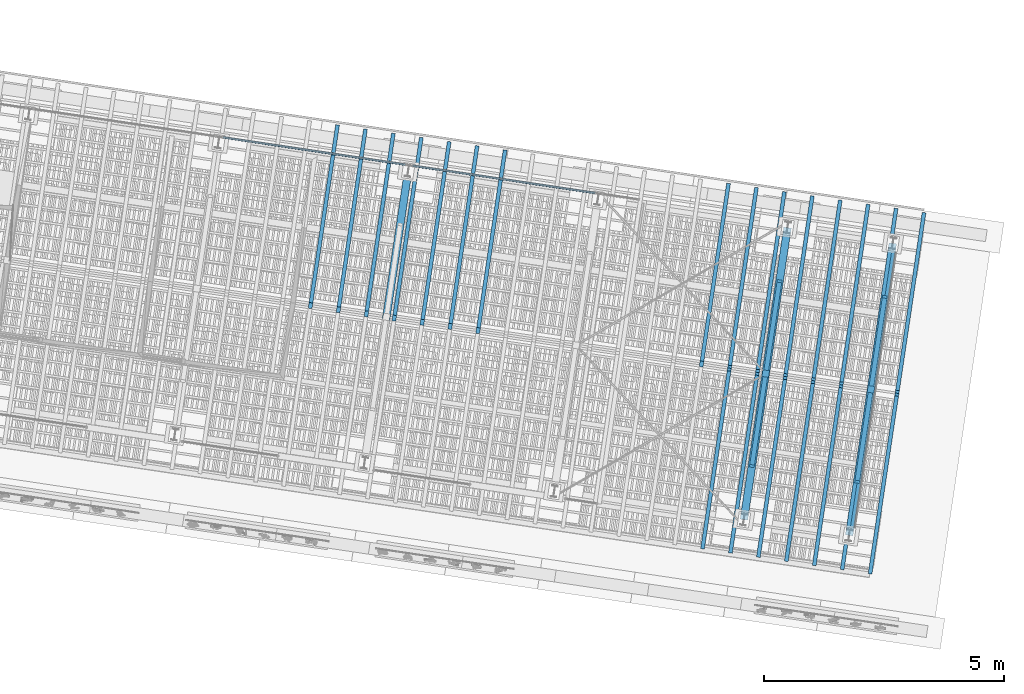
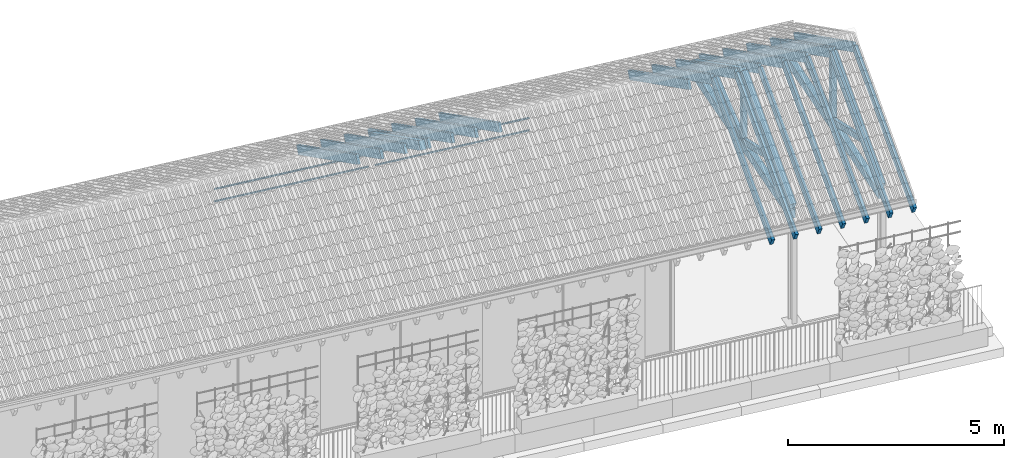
# One storey, part 101 of 128: 37 members, 2 beams, 1 element without a shape of its own.
"""IFC4 building model written with IfcOpenShell, lengths in metres."""

from ifc_helpers import new_model, si_unit, direction, frame, origin_with_axes, place, context, subcontext, project, spatial, rectangle, extrude, material, material_profile, profile_set, profile_usage, type_object, element, aggregate, save


model = new_model("IFC4")

# Units and contexts
model_context = context("Model", 3, precision=1e-05, world=origin_with_axes(), true_north=direction((0.0, 1.0)))
body_context = subcontext(model_context, "Body", "Model", "MODEL_VIEW")
ifc_project = project(units=[si_unit("VOLUMEUNIT", "CUBIC_METRE"), si_unit("LENGTHUNIT", "METRE"), si_unit("AREAUNIT", "SQUARE_METRE")], contexts=[model_context])

# Site, building, storey
site_placement = place(None, origin_with_axes())
site = spatial("IfcSite", under=ifc_project, at=site_placement, Name="Lares · Rua das Mercês · artigo 4771")
building_placement = place(site_placement, frame((15.0, 9.7, 13.9), z_axis=(0.0, 0.0, 1.0), x_axis=(0.989015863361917, -0.147809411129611, 0.0)))
building = spatial("IfcBuilding", under=site, at=building_placement, Name="Casa Sobreposta")
storey_placement = place(building_placement, origin_with_axes())
storey = spatial("IfcBuildingStorey", under=building, at=storey_placement, Name="00 · Habitação e estacionamento", Elevation=13.9)

# Members
ifc_material_1 = material(Name="Aço pintado / Stahl lackiert", Category="steel")
ifc_material_profile_1 = material_profile(ifc_material_1, rectangle(XDim=0.035, YDim=0.035))
ifc_profile_set_1 = profile_set([ifc_material_profile_1], Name="R0.035")
ifc_profile_usage_1 = profile_usage(ifc_profile_set_1)
member_type_1 = type_object("IfcMemberType", Name="R0.035 / steel", PredefinedType="NOTDEFINED", material=ifc_profile_set_1)
member_1_placement = place(storey_placement, frame((16.08, 6.4, 2.35), z_axis=(1.0, 0.0, 0.0), x_axis=(0.0, -1.0, 0.0)))
element("IfcMember", 1, at=member_1_placement, inside=storey, type_object=member_type_1, material=ifc_profile_usage_1, Name="Rasgo norte 5 · travessa", context=body_context, shape_type="SweptSolid", body=[
    extrude(rectangle(XDim=0.035, YDim=0.035), origin_with_axes(), (0.0, 0.0, 1.0), 3.84),
])
ifc_profile_usage_2 = profile_usage(ifc_profile_set_1)
member_2_placement = place(storey_placement, frame((16.08, 6.4, 2.7), z_axis=(1.0, 0.0, 0.0), x_axis=(0.0, -1.0, 0.0)))
element("IfcMember", 2, at=member_2_placement, inside=storey, type_object=member_type_1, material=ifc_profile_usage_2, Name="Rasgo norte 5 · travessa", context=body_context, shape_type="SweptSolid", body=[
    extrude(rectangle(XDim=0.035, YDim=0.035), origin_with_axes(), (0.0, 0.0, 1.0), 3.84),
])
ifc_profile_usage_3 = profile_usage(ifc_profile_set_1)
member_3_placement = place(storey_placement, frame((20.08, 6.4, 2.35), z_axis=(1.0, 0.0, 0.0), x_axis=(0.0, -1.0, 0.0)))
element("IfcMember", 3, at=member_3_placement, inside=storey, type_object=member_type_1, material=ifc_profile_usage_3, Name="Rasgo norte 6 · travessa", context=body_context, shape_type="SweptSolid", body=[
    extrude(rectangle(XDim=0.035, YDim=0.035), origin_with_axes(), (0.0, 0.0, 1.0), 3.84),
])
ifc_profile_usage_4 = profile_usage(ifc_profile_set_1)
member_4_placement = place(storey_placement, frame((20.08, 6.4, 2.7), z_axis=(1.0, 0.0, 0.0), x_axis=(0.0, -1.0, 0.0)))
element("IfcMember", 4, at=member_4_placement, inside=storey, type_object=member_type_1, material=ifc_profile_usage_4, Name="Rasgo norte 6 · travessa", context=body_context, shape_type="SweptSolid", body=[
    extrude(rectangle(XDim=0.035, YDim=0.035), origin_with_axes(), (0.0, 0.0, 1.0), 3.84),
])

# Roof, beams, members
ifc_material_2 = material(Name="Madeira / Bauholz", Category="wood")
roof_placement = place(storey_placement, origin_with_axes())
roof = element("IfcRoof", 5, at=roof_placement, inside=storey, material=ifc_material_2, Name="Cobertura de telha · duas águas 30 graus", PredefinedType="GABLE_ROOF")
ifc_material_profile_2 = material_profile(ifc_material_2, rectangle(XDim=0.16, YDim=0.24))
ifc_profile_set_2 = profile_set([ifc_material_profile_2], Name="TIMBER0.160x0.240")
ifc_profile_usage_5 = profile_usage(ifc_profile_set_2)
beam_type = type_object("IfcBeamType", Name="TIMBER0.160x0.240 / timber", PredefinedType="NOTDEFINED", material=ifc_profile_set_2)
beam_1_placement = place(roof_placement, frame((28.0, 0.12, 3.02), z_axis=(0.0, 1.0, 0.0), x_axis=(1.0, 0.0, 0.0)))
beam_1 = element("IfcBeam", 6, at=beam_1_placement, type_object=beam_type, material=ifc_profile_usage_5, Name="Tesoura · tirante inferior", context=body_context, shape_type="SweptSolid", body=[
    extrude(rectangle(XDim=0.16, YDim=0.24), origin_with_axes(), (0.0, 0.0, 1.0), 6.16),
])
ifc_profile_usage_6 = profile_usage(ifc_profile_set_2)
beam_2_placement = place(roof_placement, frame((30.22, 0.12, 3.02), z_axis=(0.0, 1.0, 0.0), x_axis=(1.0, 0.0, 0.0)))
beam_2 = element("IfcBeam", 7, at=beam_2_placement, type_object=beam_type, material=ifc_profile_usage_6, Name="Tesoura · tirante inferior", context=body_context, shape_type="SweptSolid", body=[
    extrude(rectangle(XDim=0.16, YDim=0.24), origin_with_axes(), (0.0, 0.0, 1.0), 6.16),
])
ifc_material_profile_3 = material_profile(ifc_material_2, rectangle(XDim=0.16, YDim=0.24))
ifc_profile_set_3 = profile_set([ifc_material_profile_3], Name="TIMBER0.160x0.240")
ifc_profile_usage_7 = profile_usage(ifc_profile_set_3)
member_type_2 = type_object("IfcMemberType", Name="TIMBER0.160x0.240 / timber", PredefinedType="NOTDEFINED", material=ifc_profile_set_3)
member_5_placement = place(roof_placement, frame((20.0, 3.2, 5.0225208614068), z_axis=(0.0, 0.866025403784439, -0.5), x_axis=(1.0, 0.0, 0.0)))
member_5 = element("IfcMember", 8, at=member_5_placement, type_object=member_type_2, material=ifc_profile_usage_7, Name="Tesoura · perna", context=body_context, shape_type="SweptSolid", body=[
    extrude(rectangle(XDim=0.16, YDim=0.24), origin_with_axes(), (0.0, 0.0, 1.0), 3.5564776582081),
])
ifc_profile_usage_8 = profile_usage(ifc_profile_set_3)
member_6_placement = place(roof_placement, frame((28.0, 0.12, 3.24428203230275), z_axis=(0.0, 0.866025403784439, 0.5), x_axis=(1.0, 0.0, 0.0)))
member_6 = element("IfcMember", 9, at=member_6_placement, type_object=member_type_2, material=ifc_profile_usage_8, Name="Tesoura · perna", context=body_context, shape_type="SweptSolid", body=[
    extrude(rectangle(XDim=0.16, YDim=0.24), origin_with_axes(), (0.0, 0.0, 1.0), 3.5564776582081),
])
ifc_profile_usage_9 = profile_usage(ifc_profile_set_3)
member_7_placement = place(roof_placement, frame((28.0, 3.2, 5.0225208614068), z_axis=(0.0, 0.866025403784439, -0.5), x_axis=(1.0, 0.0, 0.0)))
member_7 = element("IfcMember", 10, at=member_7_placement, type_object=member_type_2, material=ifc_profile_usage_9, Name="Tesoura · perna", context=body_context, shape_type="SweptSolid", body=[
    extrude(rectangle(XDim=0.16, YDim=0.24), origin_with_axes(), (0.0, 0.0, 1.0), 3.5564776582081),
])
ifc_profile_usage_10 = profile_usage(ifc_profile_set_3)
member_8_placement = place(roof_placement, frame((30.22, 0.12, 3.24428203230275), z_axis=(0.0, 0.866025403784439, 0.5), x_axis=(1.0, 0.0, 0.0)))
member_8 = element("IfcMember", 11, at=member_8_placement, type_object=member_type_2, material=ifc_profile_usage_10, Name="Tesoura · perna", context=body_context, shape_type="SweptSolid", body=[
    extrude(rectangle(XDim=0.16, YDim=0.24), origin_with_axes(), (0.0, 0.0, 1.0), 3.5564776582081),
])
ifc_profile_usage_11 = profile_usage(ifc_profile_set_3)
member_9_placement = place(roof_placement, frame((30.22, 3.2, 5.0225208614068), z_axis=(0.0, 0.866025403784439, -0.5), x_axis=(1.0, 0.0, 0.0)))
member_9 = element("IfcMember", 12, at=member_9_placement, type_object=member_type_2, material=ifc_profile_usage_11, Name="Tesoura · perna", context=body_context, shape_type="SweptSolid", body=[
    extrude(rectangle(XDim=0.16, YDim=0.24), origin_with_axes(), (0.0, 0.0, 1.0), 3.5564776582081),
])
ifc_material_profile_4 = material_profile(ifc_material_2, rectangle(XDim=0.14, YDim=0.14))
ifc_profile_set_4 = profile_set([ifc_material_profile_4], Name="TIMBER0.140x0.140")
ifc_profile_usage_12 = profile_usage(ifc_profile_set_4)
member_type_3 = type_object("IfcMemberType", Name="TIMBER0.140x0.140 / timber", PredefinedType="NOTDEFINED", material=ifc_profile_set_4)
member_10_placement = place(roof_placement, frame((28.0, 3.2, 3.02), z_axis=(0.0, 0.0, 1.0), x_axis=(1.0, 0.0, 0.0)))
member_10 = element("IfcMember", 13, at=member_10_placement, type_object=member_type_3, material=ifc_profile_usage_12, Name="Tesoura · pendural", context=body_context, shape_type="SweptSolid", body=[
    extrude(rectangle(XDim=0.14, YDim=0.14), origin_with_axes(), (0.0, 0.0, 1.0), 2.0025208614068),
])
ifc_profile_usage_13 = profile_usage(ifc_profile_set_4)
member_11_placement = place(roof_placement, frame((30.22, 3.2, 3.02), z_axis=(0.0, 0.0, 1.0), x_axis=(1.0, 0.0, 0.0)))
member_11 = element("IfcMember", 14, at=member_11_placement, type_object=member_type_3, material=ifc_profile_usage_13, Name="Tesoura · pendural", context=body_context, shape_type="SweptSolid", body=[
    extrude(rectangle(XDim=0.14, YDim=0.14), origin_with_axes(), (0.0, 0.0, 1.0), 2.0025208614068),
])
ifc_material_profile_5 = material_profile(ifc_material_2, rectangle(XDim=0.1, YDim=0.16))
ifc_profile_set_5 = profile_set([ifc_material_profile_5], Name="TIMBER0.100x0.160")
ifc_profile_usage_14 = profile_usage(ifc_profile_set_5)
member_type_4 = type_object("IfcMemberType", Name="TIMBER0.100x0.160 / timber", PredefinedType="NOTDEFINED", material=ifc_profile_set_5)
member_12_placement = place(roof_placement, frame((28.0, 3.2, 3.1), z_axis=(0.0, -0.937832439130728, 0.347088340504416), x_axis=(-1.0, 0.0, 0.0)))
member_12 = element("IfcMember", 15, at=member_12_placement, type_object=member_type_4, material=ifc_profile_usage_14, Name="Tesoura · escora", context=body_context, shape_type="SweptSolid", body=[
    extrude(rectangle(XDim=0.1, YDim=0.16), origin_with_axes(), (0.0, 0.0, 1.0), 2.07926268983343),
])
ifc_profile_usage_15 = profile_usage(ifc_profile_set_5)
member_13_placement = place(roof_placement, frame((28.0, 3.2, 3.1), z_axis=(0.0, 0.937832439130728, 0.347088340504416), x_axis=(1.0, 0.0, 0.0)))
member_13 = element("IfcMember", 16, at=member_13_placement, type_object=member_type_4, material=ifc_profile_usage_15, Name="Tesoura · escora", context=body_context, shape_type="SweptSolid", body=[
    extrude(rectangle(XDim=0.1, YDim=0.16), origin_with_axes(), (0.0, 0.0, 1.0), 2.07926268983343),
])
ifc_profile_usage_16 = profile_usage(ifc_profile_set_5)
member_14_placement = place(roof_placement, frame((30.22, 3.2, 3.1), z_axis=(0.0, -0.937832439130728, 0.347088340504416), x_axis=(-1.0, 0.0, 0.0)))
member_14 = element("IfcMember", 17, at=member_14_placement, type_object=member_type_4, material=ifc_profile_usage_16, Name="Tesoura · escora", context=body_context, shape_type="SweptSolid", body=[
    extrude(rectangle(XDim=0.1, YDim=0.16), origin_with_axes(), (0.0, 0.0, 1.0), 2.07926268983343),
])
ifc_profile_usage_17 = profile_usage(ifc_profile_set_5)
member_15_placement = place(roof_placement, frame((30.22, 3.2, 3.1), z_axis=(0.0, 0.937832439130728, 0.347088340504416), x_axis=(1.0, 0.0, 0.0)))
member_15 = element("IfcMember", 18, at=member_15_placement, type_object=member_type_4, material=ifc_profile_usage_17, Name="Tesoura · escora", context=body_context, shape_type="SweptSolid", body=[
    extrude(rectangle(XDim=0.1, YDim=0.16), origin_with_axes(), (0.0, 0.0, 1.0), 2.07926268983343),
])
ifc_material_profile_6 = material_profile(ifc_material_2, rectangle(XDim=0.08, YDim=0.24))
ifc_profile_set_6 = profile_set([ifc_material_profile_6], Name="TIMBER0.080x0.240")
ifc_profile_usage_18 = profile_usage(ifc_profile_set_6)
member_type_5 = type_object("IfcMemberType", Name="TIMBER0.080x0.240 / timber", PredefinedType="NOTDEFINED", material=ifc_profile_set_6)
member_16_placement = place(roof_placement, frame((18.3998113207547, 3.2, 5.0285208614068), z_axis=(0.0, 0.866025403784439, -0.5), x_axis=(1.0, 0.0, 0.0)))
member_16 = element("IfcMember", 19, at=member_16_placement, type_object=member_type_5, material=ifc_profile_usage_18, Name="Cobertura · caibro", context=body_context, shape_type="SweptSolid", body=[
    extrude(rectangle(XDim=0.08, YDim=0.24), origin_with_axes(), (0.0, 0.0, 1.0), 4.33012701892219),
])
ifc_profile_usage_19 = profile_usage(ifc_profile_set_6)
member_17_placement = place(roof_placement, frame((18.9888679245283, 3.2, 5.0285208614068), z_axis=(0.0, 0.866025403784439, -0.5), x_axis=(1.0, 0.0, 0.0)))
member_17 = element("IfcMember", 20, at=member_17_placement, type_object=member_type_5, material=ifc_profile_usage_19, Name="Cobertura · caibro", context=body_context, shape_type="SweptSolid", body=[
    extrude(rectangle(XDim=0.08, YDim=0.24), origin_with_axes(), (0.0, 0.0, 1.0), 4.33012701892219),
])
ifc_profile_usage_20 = profile_usage(ifc_profile_set_6)
member_18_placement = place(roof_placement, frame((19.5779245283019, 3.2, 5.0285208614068), z_axis=(0.0, 0.866025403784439, -0.5), x_axis=(1.0, 0.0, 0.0)))
member_18 = element("IfcMember", 21, at=member_18_placement, type_object=member_type_5, material=ifc_profile_usage_20, Name="Cobertura · caibro", context=body_context, shape_type="SweptSolid", body=[
    extrude(rectangle(XDim=0.08, YDim=0.24), origin_with_axes(), (0.0, 0.0, 1.0), 4.33012701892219),
])
ifc_profile_usage_21 = profile_usage(ifc_profile_set_6)
member_19_placement = place(roof_placement, frame((20.1669811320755, 3.2, 5.0285208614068), z_axis=(0.0, 0.866025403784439, -0.5), x_axis=(1.0, 0.0, 0.0)))
member_19 = element("IfcMember", 22, at=member_19_placement, type_object=member_type_5, material=ifc_profile_usage_21, Name="Cobertura · caibro", context=body_context, shape_type="SweptSolid", body=[
    extrude(rectangle(XDim=0.08, YDim=0.24), origin_with_axes(), (0.0, 0.0, 1.0), 4.33012701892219),
])
ifc_profile_usage_22 = profile_usage(ifc_profile_set_6)
member_20_placement = place(roof_placement, frame((20.7560377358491, 3.2, 5.0285208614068), z_axis=(0.0, 0.866025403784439, -0.5), x_axis=(1.0, 0.0, 0.0)))
member_20 = element("IfcMember", 23, at=member_20_placement, type_object=member_type_5, material=ifc_profile_usage_22, Name="Cobertura · caibro", context=body_context, shape_type="SweptSolid", body=[
    extrude(rectangle(XDim=0.08, YDim=0.24), origin_with_axes(), (0.0, 0.0, 1.0), 4.33012701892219),
])
ifc_profile_usage_23 = profile_usage(ifc_profile_set_6)
member_21_placement = place(roof_placement, frame((21.3450943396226, 3.2, 5.0285208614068), z_axis=(0.0, 0.866025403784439, -0.5), x_axis=(1.0, 0.0, 0.0)))
member_21 = element("IfcMember", 24, at=member_21_placement, type_object=member_type_5, material=ifc_profile_usage_23, Name="Cobertura · caibro", context=body_context, shape_type="SweptSolid", body=[
    extrude(rectangle(XDim=0.08, YDim=0.24), origin_with_axes(), (0.0, 0.0, 1.0), 4.33012701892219),
])
ifc_profile_usage_24 = profile_usage(ifc_profile_set_6)
member_22_placement = place(roof_placement, frame((21.9341509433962, 3.2, 5.0285208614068), z_axis=(0.0, 0.866025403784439, -0.5), x_axis=(1.0, 0.0, 0.0)))
member_22 = element("IfcMember", 25, at=member_22_placement, type_object=member_type_5, material=ifc_profile_usage_24, Name="Cobertura · caibro", context=body_context, shape_type="SweptSolid", body=[
    extrude(rectangle(XDim=0.08, YDim=0.24), origin_with_axes(), (0.0, 0.0, 1.0), 4.33012701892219),
])
ifc_profile_usage_25 = profile_usage(ifc_profile_set_6)
member_23_placement = place(roof_placement, frame((26.6466037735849, 3.2, 5.0285208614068), z_axis=(0.0, 0.866025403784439, -0.5), x_axis=(1.0, 0.0, 0.0)))
member_23 = element("IfcMember", 26, at=member_23_placement, type_object=member_type_5, material=ifc_profile_usage_25, Name="Cobertura · caibro", context=body_context, shape_type="SweptSolid", body=[
    extrude(rectangle(XDim=0.08, YDim=0.24), origin_with_axes(), (0.0, 0.0, 1.0), 4.33012701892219),
])
ifc_profile_usage_26 = profile_usage(ifc_profile_set_6)
member_24_placement = place(roof_placement, frame((27.2356603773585, -0.55, 2.86345735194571), z_axis=(0.0, 0.866025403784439, 0.5), x_axis=(1.0, 0.0, 0.0)))
member_24 = element("IfcMember", 27, at=member_24_placement, type_object=member_type_5, material=ifc_profile_usage_26, Name="Cobertura · caibro", context=body_context, shape_type="SweptSolid", body=[
    extrude(rectangle(XDim=0.08, YDim=0.24), origin_with_axes(), (0.0, 0.0, 1.0), 4.33012701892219),
])
ifc_profile_usage_27 = profile_usage(ifc_profile_set_6)
member_25_placement = place(roof_placement, frame((27.2356603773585, 3.2, 5.0285208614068), z_axis=(0.0, 0.866025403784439, -0.5), x_axis=(1.0, 0.0, 0.0)))
member_25 = element("IfcMember", 28, at=member_25_placement, type_object=member_type_5, material=ifc_profile_usage_27, Name="Cobertura · caibro", context=body_context, shape_type="SweptSolid", body=[
    extrude(rectangle(XDim=0.08, YDim=0.24), origin_with_axes(), (0.0, 0.0, 1.0), 4.33012701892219),
])
ifc_profile_usage_28 = profile_usage(ifc_profile_set_6)
member_26_placement = place(roof_placement, frame((27.8247169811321, -0.55, 2.86345735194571), z_axis=(0.0, 0.866025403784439, 0.5), x_axis=(1.0, 0.0, 0.0)))
member_26 = element("IfcMember", 29, at=member_26_placement, type_object=member_type_5, material=ifc_profile_usage_28, Name="Cobertura · caibro", context=body_context, shape_type="SweptSolid", body=[
    extrude(rectangle(XDim=0.08, YDim=0.24), origin_with_axes(), (0.0, 0.0, 1.0), 4.33012701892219),
])
ifc_profile_usage_29 = profile_usage(ifc_profile_set_6)
member_27_placement = place(roof_placement, frame((27.8247169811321, 3.2, 5.0285208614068), z_axis=(0.0, 0.866025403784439, -0.5), x_axis=(1.0, 0.0, 0.0)))
member_27 = element("IfcMember", 30, at=member_27_placement, type_object=member_type_5, material=ifc_profile_usage_29, Name="Cobertura · caibro", context=body_context, shape_type="SweptSolid", body=[
    extrude(rectangle(XDim=0.08, YDim=0.24), origin_with_axes(), (0.0, 0.0, 1.0), 4.33012701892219),
])
ifc_profile_usage_30 = profile_usage(ifc_profile_set_6)
member_28_placement = place(roof_placement, frame((28.4137735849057, -0.55, 2.86345735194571), z_axis=(0.0, 0.866025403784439, 0.5), x_axis=(1.0, 0.0, 0.0)))
member_28 = element("IfcMember", 31, at=member_28_placement, type_object=member_type_5, material=ifc_profile_usage_30, Name="Cobertura · caibro", context=body_context, shape_type="SweptSolid", body=[
    extrude(rectangle(XDim=0.08, YDim=0.24), origin_with_axes(), (0.0, 0.0, 1.0), 4.33012701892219),
])
ifc_profile_usage_31 = profile_usage(ifc_profile_set_6)
member_29_placement = place(roof_placement, frame((28.4137735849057, 3.2, 5.0285208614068), z_axis=(0.0, 0.866025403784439, -0.5), x_axis=(1.0, 0.0, 0.0)))
member_29 = element("IfcMember", 32, at=member_29_placement, type_object=member_type_5, material=ifc_profile_usage_31, Name="Cobertura · caibro", context=body_context, shape_type="SweptSolid", body=[
    extrude(rectangle(XDim=0.08, YDim=0.24), origin_with_axes(), (0.0, 0.0, 1.0), 4.33012701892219),
])
ifc_profile_usage_32 = profile_usage(ifc_profile_set_6)
member_30_placement = place(roof_placement, frame((29.0028301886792, -0.55, 2.86345735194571), z_axis=(0.0, 0.866025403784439, 0.5), x_axis=(1.0, 0.0, 0.0)))
member_30 = element("IfcMember", 33, at=member_30_placement, type_object=member_type_5, material=ifc_profile_usage_32, Name="Cobertura · caibro", context=body_context, shape_type="SweptSolid", body=[
    extrude(rectangle(XDim=0.08, YDim=0.24), origin_with_axes(), (0.0, 0.0, 1.0), 4.33012701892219),
])
ifc_profile_usage_33 = profile_usage(ifc_profile_set_6)
member_31_placement = place(roof_placement, frame((29.0028301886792, 3.2, 5.0285208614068), z_axis=(0.0, 0.866025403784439, -0.5), x_axis=(1.0, 0.0, 0.0)))
member_31 = element("IfcMember", 34, at=member_31_placement, type_object=member_type_5, material=ifc_profile_usage_33, Name="Cobertura · caibro", context=body_context, shape_type="SweptSolid", body=[
    extrude(rectangle(XDim=0.08, YDim=0.24), origin_with_axes(), (0.0, 0.0, 1.0), 4.33012701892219),
])
ifc_profile_usage_34 = profile_usage(ifc_profile_set_6)
member_32_placement = place(roof_placement, frame((29.5918867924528, -0.55, 2.86345735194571), z_axis=(0.0, 0.866025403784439, 0.5), x_axis=(1.0, 0.0, 0.0)))
member_32 = element("IfcMember", 35, at=member_32_placement, type_object=member_type_5, material=ifc_profile_usage_34, Name="Cobertura · caibro", context=body_context, shape_type="SweptSolid", body=[
    extrude(rectangle(XDim=0.08, YDim=0.24), origin_with_axes(), (0.0, 0.0, 1.0), 4.33012701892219),
])
ifc_profile_usage_35 = profile_usage(ifc_profile_set_6)
member_33_placement = place(roof_placement, frame((29.5918867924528, 3.2, 5.0285208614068), z_axis=(0.0, 0.866025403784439, -0.5), x_axis=(1.0, 0.0, 0.0)))
member_33 = element("IfcMember", 36, at=member_33_placement, type_object=member_type_5, material=ifc_profile_usage_35, Name="Cobertura · caibro", context=body_context, shape_type="SweptSolid", body=[
    extrude(rectangle(XDim=0.08, YDim=0.24), origin_with_axes(), (0.0, 0.0, 1.0), 4.33012701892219),
])
ifc_profile_usage_36 = profile_usage(ifc_profile_set_6)
member_34_placement = place(roof_placement, frame((30.1809433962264, -0.55, 2.86345735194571), z_axis=(0.0, 0.866025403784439, 0.5), x_axis=(1.0, 0.0, 0.0)))
member_34 = element("IfcMember", 37, at=member_34_placement, type_object=member_type_5, material=ifc_profile_usage_36, Name="Cobertura · caibro", context=body_context, shape_type="SweptSolid", body=[
    extrude(rectangle(XDim=0.08, YDim=0.24), origin_with_axes(), (0.0, 0.0, 1.0), 4.33012701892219),
])
ifc_profile_usage_37 = profile_usage(ifc_profile_set_6)
member_35_placement = place(roof_placement, frame((30.1809433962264, 3.2, 5.0285208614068), z_axis=(0.0, 0.866025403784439, -0.5), x_axis=(1.0, 0.0, 0.0)))
member_35 = element("IfcMember", 38, at=member_35_placement, type_object=member_type_5, material=ifc_profile_usage_37, Name="Cobertura · caibro", context=body_context, shape_type="SweptSolid", body=[
    extrude(rectangle(XDim=0.08, YDim=0.24), origin_with_axes(), (0.0, 0.0, 1.0), 4.33012701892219),
])
ifc_profile_usage_38 = profile_usage(ifc_profile_set_6)
member_36_placement = place(roof_placement, frame((30.77, -0.55, 2.86345735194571), z_axis=(0.0, 0.866025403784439, 0.5), x_axis=(1.0, 0.0, 0.0)))
member_36 = element("IfcMember", 39, at=member_36_placement, type_object=member_type_5, material=ifc_profile_usage_38, Name="Cobertura · caibro", context=body_context, shape_type="SweptSolid", body=[
    extrude(rectangle(XDim=0.08, YDim=0.24), origin_with_axes(), (0.0, 0.0, 1.0), 4.33012701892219),
])
ifc_profile_usage_39 = profile_usage(ifc_profile_set_6)
member_37_placement = place(roof_placement, frame((30.77, 3.2, 5.0285208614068), z_axis=(0.0, 0.866025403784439, -0.5), x_axis=(1.0, 0.0, 0.0)))
member_37 = element("IfcMember", 40, at=member_37_placement, type_object=member_type_5, material=ifc_profile_usage_39, Name="Cobertura · caibro", context=body_context, shape_type="SweptSolid", body=[
    extrude(rectangle(XDim=0.08, YDim=0.24), origin_with_axes(), (0.0, 0.0, 1.0), 4.33012701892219),
])
aggregate(roof, [member_5, beam_1, member_6, member_7, member_10, member_12, member_13, beam_2, member_8, member_9, member_11, member_14, member_15, member_16, member_17, member_18, member_19, member_20, member_21, member_22, member_23, member_24, member_25, member_26, member_27, member_28, member_29, member_30, member_31, member_32, member_33, member_34, member_35, member_36, member_37])

save(model, "model.ifc")
